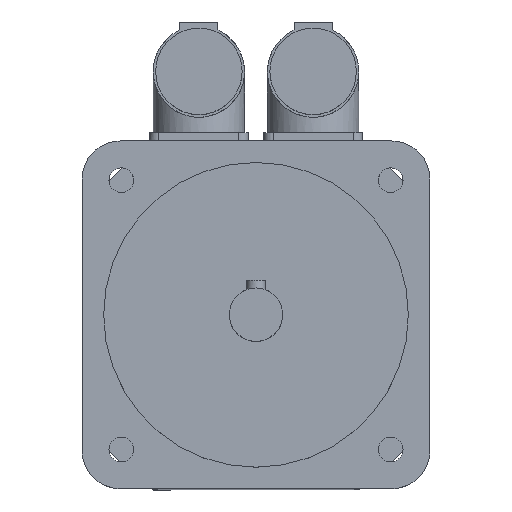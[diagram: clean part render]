
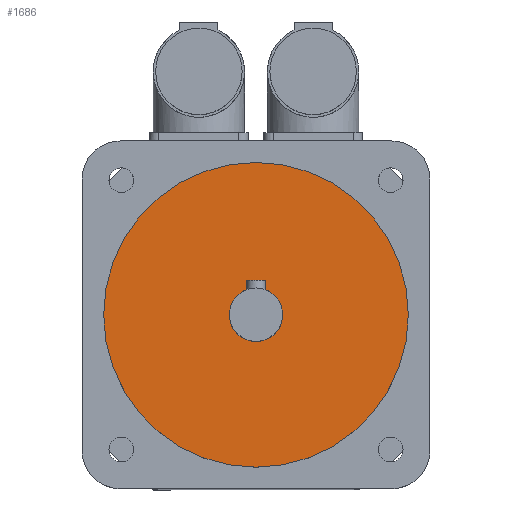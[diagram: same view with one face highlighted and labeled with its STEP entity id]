
A CAD part, top view. The second image highlights one B-rep face of the part: STEP entity #1686.
In plain terms, the highlighted planar face has unit normal (0, 0, 1).
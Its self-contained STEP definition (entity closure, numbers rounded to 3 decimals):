
#28=FACE_BOUND('',#305,.T.);
#53=CIRCLE('',#1788,7.);
#54=CIRCLE('',#1791,40.);
#202=FACE_OUTER_BOUND('',#304,.T.);
#304=EDGE_LOOP('',(#1158));
#305=EDGE_LOOP('',(#1159));
#718=VERTEX_POINT('',#2569);
#719=VERTEX_POINT('',#2573);
#892=EDGE_CURVE('',#718,#718,#53,.T.);
#893=EDGE_CURVE('',#719,#719,#54,.T.);
#1158=ORIENTED_EDGE('',*,*,#893,.T.);
#1159=ORIENTED_EDGE('',*,*,#892,.T.);
#1633=PLANE('',#1793);
#1686=ADVANCED_FACE('',(#202,#28),#1633,.T.);
#1788=AXIS2_PLACEMENT_3D('',#2570,#2000,#2001);
#1791=AXIS2_PLACEMENT_3D('',#2574,#2006,#2007);
#1793=AXIS2_PLACEMENT_3D('',#2577,#2010,#2011);
#2000=DIRECTION('center_axis',(0.,0.,-1.));
#2001=DIRECTION('ref_axis',(-1.,0.,0.));
#2006=DIRECTION('center_axis',(0.,0.,1.));
#2007=DIRECTION('ref_axis',(-1.,0.,0.));
#2010=DIRECTION('center_axis',(0.,0.,1.));
#2011=DIRECTION('ref_axis',(1.,0.,0.));
#2569=CARTESIAN_POINT('',(7.,0.,176.));
#2570=CARTESIAN_POINT('Origin',(0.,0.,176.));
#2573=CARTESIAN_POINT('',(40.,0.,176.));
#2574=CARTESIAN_POINT('Origin',(0.,0.,176.));
#2577=CARTESIAN_POINT('Origin',(0.,0.,
176.));
